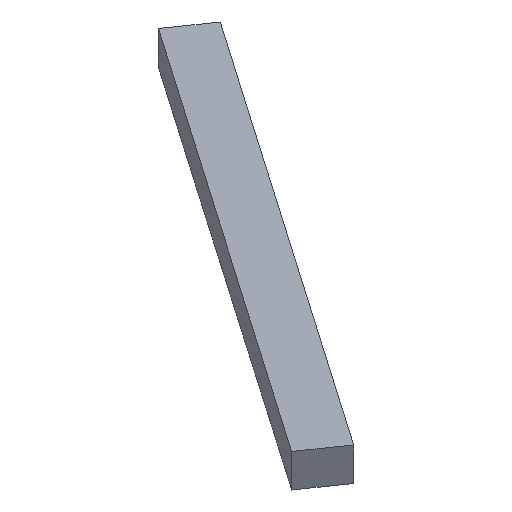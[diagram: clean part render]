
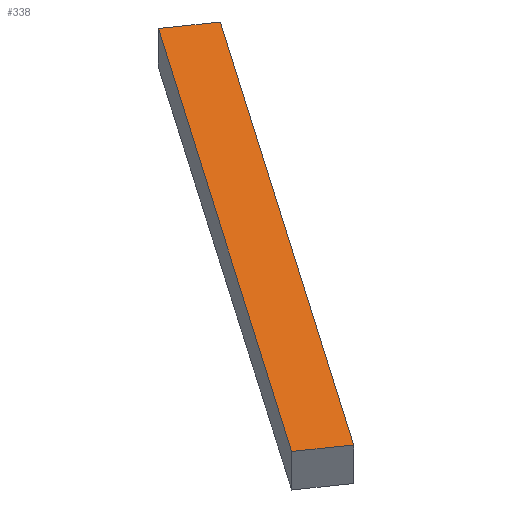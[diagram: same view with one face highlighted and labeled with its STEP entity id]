
A CAD part, isometric view. The second image highlights one B-rep face of the part: STEP entity #338.
In plain terms, the highlighted planar face has unit normal (0, 0, 1).
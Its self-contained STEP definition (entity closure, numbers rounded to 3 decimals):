
#24 = VERTEX_POINT('',#25);
#25 = CARTESIAN_POINT('',(-491.711,117.723,43.));
#32 = PLANE('',#33);
#33 = AXIS2_PLACEMENT_3D('',#34,#35,#36);
#34 = CARTESIAN_POINT('',(-491.711,117.723,37.));
#35 = DIRECTION('',(0.822,-0.569,0.));
#36 = DIRECTION('',(-0.569,-0.822,0.));
#44 = PLANE('',#45);
#45 = AXIS2_PLACEMENT_3D('',#46,#47,#48);
#46 = CARTESIAN_POINT('',(-498.289,122.277,37.));
#47 = DIRECTION('',(0.569,0.822,-0.));
#48 = DIRECTION('',(0.822,-0.569,0.));
#56 = EDGE_CURVE('',#24,#57,#59,.T.);
#57 = VERTEX_POINT('',#58);
#58 = CARTESIAN_POINT('',(-545.577,39.922,43.));
#59 = SURFACE_CURVE('',#60,(#64,#71),.PCURVE_S1.);
#60 = LINE('',#61,#62);
#61 = CARTESIAN_POINT('',(-491.711,117.723,43.));
#62 = VECTOR('',#63,1.);
#63 = DIRECTION('',(-0.569,-0.822,0.));
#64 = PCURVE('',#32,#65);
#65 = DEFINITIONAL_REPRESENTATION('',(#66),#70);
#66 = LINE('',#67,#68);
#67 = CARTESIAN_POINT('',(0.,-6.));
#68 = VECTOR('',#69,1.);
#69 = DIRECTION('',(1.,0.));
#70 = ( GEOMETRIC_REPRESENTATION_CONTEXT(2) 
PARAMETRIC_REPRESENTATION_CONTEXT() REPRESENTATION_CONTEXT('2D SPACE',''
  ) );
#71 = PCURVE('',#72,#77);
#72 = PLANE('',#73);
#73 = AXIS2_PLACEMENT_3D('',#74,#75,#76);
#74 = CARTESIAN_POINT('',(-521.933,81.099,43.));
#75 = DIRECTION('',(-0.,-0.,-1.));
#76 = DIRECTION('',(-1.,0.,0.));
#77 = DEFINITIONAL_REPRESENTATION('',(#78),#82);
#78 = LINE('',#79,#80);
#79 = CARTESIAN_POINT('',(-30.221,36.624));
#80 = VECTOR('',#81,1.);
#81 = DIRECTION('',(0.569,-0.822));
#82 = ( GEOMETRIC_REPRESENTATION_CONTEXT(2) 
PARAMETRIC_REPRESENTATION_CONTEXT() REPRESENTATION_CONTEXT('2D SPACE',''
  ) );
#100 = PLANE('',#101);
#101 = AXIS2_PLACEMENT_3D('',#102,#103,#104);
#102 = CARTESIAN_POINT('',(-545.577,39.922,37.));
#103 = DIRECTION('',(-0.569,-0.822,0.));
#104 = DIRECTION('',(-0.822,0.569,0.));
#142 = EDGE_CURVE('',#57,#143,#145,.T.);
#143 = VERTEX_POINT('',#144);
#144 = CARTESIAN_POINT('',(-552.154,44.476,43.));
#145 = SURFACE_CURVE('',#146,(#150,#157),.PCURVE_S1.);
#146 = LINE('',#147,#148);
#147 = CARTESIAN_POINT('',(-545.577,39.922,43.));
#148 = VECTOR('',#149,1.);
#149 = DIRECTION('',(-0.822,0.569,0.));
#150 = PCURVE('',#100,#151);
#151 = DEFINITIONAL_REPRESENTATION('',(#152),#156);
#152 = LINE('',#153,#154);
#153 = CARTESIAN_POINT('',(0.,-6.));
#154 = VECTOR('',#155,1.);
#155 = DIRECTION('',(1.,0.));
#156 = ( GEOMETRIC_REPRESENTATION_CONTEXT(2) 
PARAMETRIC_REPRESENTATION_CONTEXT() REPRESENTATION_CONTEXT('2D SPACE',''
  ) );
#157 = PCURVE('',#72,#158);
#158 = DEFINITIONAL_REPRESENTATION('',(#159),#163);
#159 = LINE('',#160,#161);
#160 = CARTESIAN_POINT('',(23.644,-41.178));
#161 = VECTOR('',#162,1.);
#162 = DIRECTION('',(0.822,0.569));
#163 = ( GEOMETRIC_REPRESENTATION_CONTEXT(2) 
PARAMETRIC_REPRESENTATION_CONTEXT() REPRESENTATION_CONTEXT('2D SPACE',''
  ) );
#181 = PLANE('',#182);
#182 = AXIS2_PLACEMENT_3D('',#183,#184,#185);
#183 = CARTESIAN_POINT('',(-552.154,44.476,37.));
#184 = DIRECTION('',(-0.822,0.569,0.));
#185 = DIRECTION('',(0.569,0.822,0.));
#218 = EDGE_CURVE('',#143,#219,#221,.T.);
#219 = VERTEX_POINT('',#220);
#220 = CARTESIAN_POINT('',(-498.289,122.277,43.));
#221 = SURFACE_CURVE('',#222,(#226,#233),.PCURVE_S1.);
#222 = LINE('',#223,#224);
#223 = CARTESIAN_POINT('',(-552.154,44.476,43.));
#224 = VECTOR('',#225,1.);
#225 = DIRECTION('',(0.569,0.822,0.));
#226 = PCURVE('',#181,#227);
#227 = DEFINITIONAL_REPRESENTATION('',(#228),#232);
#228 = LINE('',#229,#230);
#229 = CARTESIAN_POINT('',(0.,-6.));
#230 = VECTOR('',#231,1.);
#231 = DIRECTION('',(1.,0.));
#232 = ( GEOMETRIC_REPRESENTATION_CONTEXT(2) 
PARAMETRIC_REPRESENTATION_CONTEXT() REPRESENTATION_CONTEXT('2D SPACE',''
  ) );
#233 = PCURVE('',#72,#234);
#234 = DEFINITIONAL_REPRESENTATION('',(#235),#239);
#235 = LINE('',#236,#237);
#236 = CARTESIAN_POINT('',(30.221,-36.624));
#237 = VECTOR('',#238,1.);
#238 = DIRECTION('',(-0.569,0.822));
#239 = ( GEOMETRIC_REPRESENTATION_CONTEXT(2) 
PARAMETRIC_REPRESENTATION_CONTEXT() REPRESENTATION_CONTEXT('2D SPACE',''
  ) );
#289 = EDGE_CURVE('',#219,#24,#290,.T.);
#290 = SURFACE_CURVE('',#291,(#295,#302),.PCURVE_S1.);
#291 = LINE('',#292,#293);
#292 = CARTESIAN_POINT('',(-498.289,122.277,43.));
#293 = VECTOR('',#294,1.);
#294 = DIRECTION('',(0.822,-0.569,0.));
#295 = PCURVE('',#44,#296);
#296 = DEFINITIONAL_REPRESENTATION('',(#297),#301);
#297 = LINE('',#298,#299);
#298 = CARTESIAN_POINT('',(0.,-6.));
#299 = VECTOR('',#300,1.);
#300 = DIRECTION('',(1.,0.));
#301 = ( GEOMETRIC_REPRESENTATION_CONTEXT(2) 
PARAMETRIC_REPRESENTATION_CONTEXT() REPRESENTATION_CONTEXT('2D SPACE',''
  ) );
#302 = PCURVE('',#72,#303);
#303 = DEFINITIONAL_REPRESENTATION('',(#304),#308);
#304 = LINE('',#305,#306);
#305 = CARTESIAN_POINT('',(-23.644,41.178));
#306 = VECTOR('',#307,1.);
#307 = DIRECTION('',(-0.822,-0.569));
#308 = ( GEOMETRIC_REPRESENTATION_CONTEXT(2) 
PARAMETRIC_REPRESENTATION_CONTEXT() REPRESENTATION_CONTEXT('2D SPACE',''
  ) );
#338 = ADVANCED_FACE('',(#339),#72,.F.);
#339 = FACE_BOUND('',#340,.F.);
#340 = EDGE_LOOP('',(#341,#342,#343,#344));
#341 = ORIENTED_EDGE('',*,*,#56,.T.);
#342 = ORIENTED_EDGE('',*,*,#142,.T.);
#343 = ORIENTED_EDGE('',*,*,#218,.T.);
#344 = ORIENTED_EDGE('',*,*,#289,.T.);
